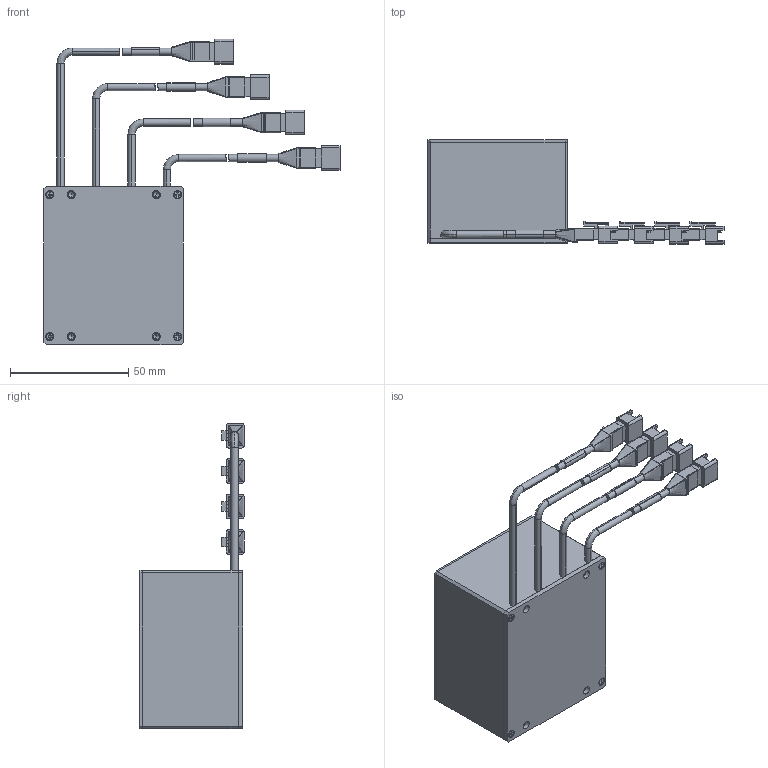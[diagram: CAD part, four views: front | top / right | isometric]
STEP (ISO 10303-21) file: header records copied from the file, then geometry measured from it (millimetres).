
FILE_DESCRIPTION (( 'STEP AP203' ), '1' );
FILE_NAME ('UA42268.STEP', '2023-02-24T01:12:30', ( 'CCS' ), ( 'シーシーエス株式会社' ), 'SwSTEP 2.0', 'SolidWorks 2017', '' );
FILE_SCHEMA (( 'CONFIG_CONTROL_DESIGN' ));
Products named in the file (1): UA42268
Bounding box: 125.2 x 44.05 x 129.25 mm (x, y, z)
Volume: 178633.4 mm3; surface area: 47954.6 mm2
Topology: 31 solids, 31 shells, 992 faces, 2442 edges, 1542 vertices
Faces by surface type: plane 656, cylinder 172, bspline 108, cone 56
Entity records: 46157 total; most frequent: CARTESIAN_POINT 23401, ORIENTED_EDGE 4820, DIRECTION 4318, EDGE_CURVE 2410, LINE 1824, VECTOR 1824, VERTEX_POINT 1542, AXIS2_PLACEMENT_3D 1247
